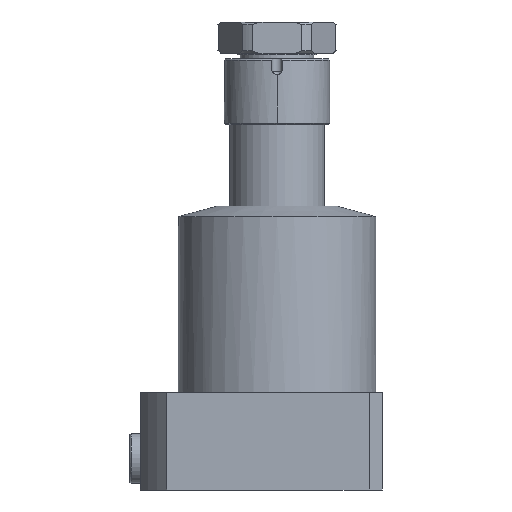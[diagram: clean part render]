
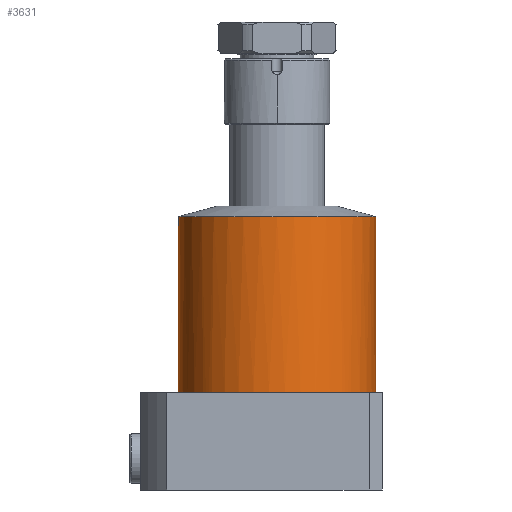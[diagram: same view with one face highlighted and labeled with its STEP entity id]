
A CAD part, front view. The second image highlights one B-rep face of the part: STEP entity #3631.
In plain terms, the highlighted cylindrical face has radius 37.5 mm (diameter 75 mm), a partial arc.
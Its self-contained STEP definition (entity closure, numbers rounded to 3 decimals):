
#64 = EDGE_CURVE ( 'NONE', #6333, #13537, #6175, .T. ) ;
#200 = CARTESIAN_POINT ( 'NONE',  ( 0., 0., 37. ) ) ;
#449 = CARTESIAN_POINT ( 'NONE',  ( 0., 0., 37. ) ) ;
#812 = CARTESIAN_POINT ( 'NONE',  ( 37.5, 0., 108. ) ) ;
#1228 = ORIENTED_EDGE ( 'NONE', *, *, #1648, .F. ) ;
#1558 = CARTESIAN_POINT ( 'NONE',  ( 0., 0., 108. ) ) ;
#1559 = DIRECTION ( 'NONE',  ( -1., 0., 0. ) ) ;
#1648 = EDGE_CURVE ( 'NONE', #10070, #13523, #9202, .T. ) ;
#1807 = DIRECTION ( 'NONE',  ( -1., 0., 0. ) ) ;
#1866 = AXIS2_PLACEMENT_3D ( 'NONE', #200, #9582, #1559 ) ;
#2136 = CARTESIAN_POINT ( 'NONE',  ( -24.801, -28.128, 37. ) ) ;
#2443 = AXIS2_PLACEMENT_3D ( 'NONE', #449, #9825, #1807 ) ;
#2725 = ORIENTED_EDGE ( 'NONE', *, *, #15314, .F. ) ;
#3631 = ADVANCED_FACE ( 'NONE', ( #4169 ), #8132, .T. ) ;
#3904 = CARTESIAN_POINT ( 'NONE',  ( 0., 0., 37. ) ) ;
#4169 = FACE_OUTER_BOUND ( 'NONE', #15675, .T. ) ;
#4246 = CARTESIAN_POINT ( 'NONE',  ( 28.128, -24.801, 37. ) ) ;
#4648 = ORIENTED_EDGE ( 'NONE', *, *, #15375, .F. ) ;
#4957 = AXIS2_PLACEMENT_3D ( 'NONE', #1558, #16333, #6942 ) ;
#5163 = CARTESIAN_POINT ( 'NONE',  ( -37.5, 0., 103.981 ) ) ;
#5238 = DIRECTION ( 'NONE',  ( -1., 0., 0. ) ) ;
#5484 = CARTESIAN_POINT ( 'NONE',  ( 0., 0., 37. ) ) ;
#5487 = CIRCLE ( 'NONE', #2443, 37.5 ) ;
#5841 = VECTOR ( 'NONE', #17307, 1000. ) ;
#6085 = CARTESIAN_POINT ( 'NONE',  ( 0., 0., 37. ) ) ;
#6175 = CIRCLE ( 'NONE', #14153, 37.5 ) ;
#6333 = VERTEX_POINT ( 'NONE', #4246 ) ;
#6346 = AXIS2_PLACEMENT_3D ( 'NONE', #15055, #6995, #16399 ) ;
#6825 = DIRECTION ( 'NONE',  ( -1., 0., 0. ) ) ;
#6942 = DIRECTION ( 'NONE',  ( -1., 0., 0. ) ) ;
#6987 = ORIENTED_EDGE ( 'NONE', *, *, #14816, .F. ) ;
#6995 = DIRECTION ( 'NONE',  ( 0., 0., 1. ) ) ;
#7096 = ORIENTED_EDGE ( 'NONE', *, *, #13726, .F. ) ;
#7338 = CARTESIAN_POINT ( 'NONE',  ( 24.801, -28.128, 37. ) ) ;
#7420 = DIRECTION ( 'NONE',  ( -1., 0., 0. ) ) ;
#7655 = VERTEX_POINT ( 'NONE', #5163 ) ;
#8132 = CYLINDRICAL_SURFACE ( 'NONE', #4957, 37.5 ) ;
#8136 = CARTESIAN_POINT ( 'NONE',  ( -28.128, -24.801, 37. ) ) ;
#8640 = DIRECTION ( 'NONE',  ( 0., 0., -1. ) ) ;
#9115 = VERTEX_POINT ( 'NONE', #8136 ) ;
#9202 = LINE ( 'NONE', #812, #10040 ) ;
#9422 = LINE ( 'NONE', #15964, #5841 ) ;
#9506 = EDGE_CURVE ( 'NONE', #7655, #12430, #9422, .T. ) ;
#9582 = DIRECTION ( 'NONE',  ( 0., 0., -1. ) ) ;
#9825 = DIRECTION ( 'NONE',  ( 0., 0., -1. ) ) ;
#10040 = VECTOR ( 'NONE', #8640, 1000. ) ;
#10070 = VERTEX_POINT ( 'NONE', #14423 ) ;
#10171 = ORIENTED_EDGE ( 'NONE', *, *, #10309, .F. ) ;
#10309 = EDGE_CURVE ( 'NONE', #13523, #6333, #10678, .T. ) ;
#10678 = CIRCLE ( 'NONE', #13879, 37.5 ) ;
#11136 = CIRCLE ( 'NONE', #6346, 37.5 ) ;
#11511 = AXIS2_PLACEMENT_3D ( 'NONE', #3904, #13319, #5238 ) ;
#12430 = VERTEX_POINT ( 'NONE', #16311 ) ;
#13319 = DIRECTION ( 'NONE',  ( 0., 0., -1. ) ) ;
#13523 = VERTEX_POINT ( 'NONE', #15233 ) ;
#13537 = VERTEX_POINT ( 'NONE', #7338 ) ;
#13726 = EDGE_CURVE ( 'NONE', #14308, #9115, #15631, .T. ) ;
#13865 = ORIENTED_EDGE ( 'NONE', *, *, #9506, .T. ) ;
#13879 = AXIS2_PLACEMENT_3D ( 'NONE', #5484, #14876, #6825 ) ;
#14153 = AXIS2_PLACEMENT_3D ( 'NONE', #6085, #15492, #7420 ) ;
#14264 = ORIENTED_EDGE ( 'NONE', *, *, #64, .F. ) ;
#14308 = VERTEX_POINT ( 'NONE', #2136 ) ;
#14423 = CARTESIAN_POINT ( 'NONE',  ( 37.5, 0., 103.981 ) ) ;
#14816 = EDGE_CURVE ( 'NONE', #13537, #14308, #5487, .T. ) ;
#14876 = DIRECTION ( 'NONE',  ( 0., 0., -1. ) ) ;
#15055 = CARTESIAN_POINT ( 'NONE',  ( 0., 0., 103.981 ) ) ;
#15138 = CIRCLE ( 'NONE', #1866, 37.5 ) ;
#15233 = CARTESIAN_POINT ( 'NONE',  ( 37.5, 0., 37. ) ) ;
#15314 = EDGE_CURVE ( 'NONE', #9115, #12430, #15138, .T. ) ;
#15375 = EDGE_CURVE ( 'NONE', #7655, #10070, #11136, .T. ) ;
#15492 = DIRECTION ( 'NONE',  ( 0., 0., -1. ) ) ;
#15631 = CIRCLE ( 'NONE', #11511, 37.5 ) ;
#15675 = EDGE_LOOP ( 'NONE', ( #1228, #4648, #13865, #2725, #7096, #6987, #14264, #10171 ) ) ;
#15964 = CARTESIAN_POINT ( 'NONE',  ( -37.5, 0., 108. ) ) ;
#16311 = CARTESIAN_POINT ( 'NONE',  ( -37.5, 0., 37. ) ) ;
#16333 = DIRECTION ( 'NONE',  ( 0., 0., -1. ) ) ;
#16399 = DIRECTION ( 'NONE',  ( -1., 0., 0. ) ) ;
#17307 = DIRECTION ( 'NONE',  ( 0., 0., -1. ) ) ;
